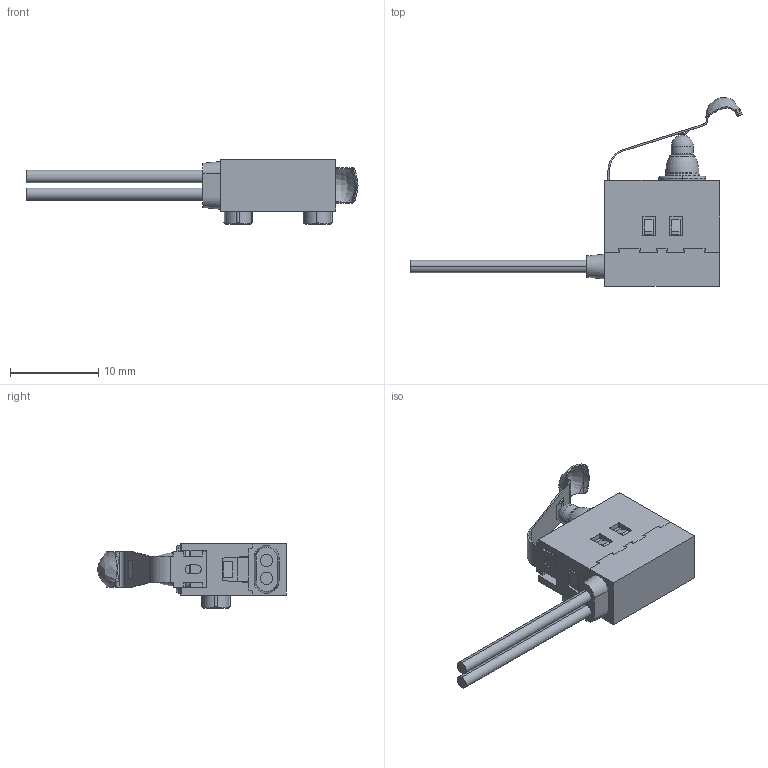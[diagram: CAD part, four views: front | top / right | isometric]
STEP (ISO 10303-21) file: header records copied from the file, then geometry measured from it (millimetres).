
FILE_DESCRIPTION (( 'STEP AP214' ), '1' );
FILE_NAME ('SPVQ352000.STEP', '2011-03-22T04:16:17', ( '' ), ( '' ), 'SwSTEP 2.0', 'SolidWorks 2007', '' );
FILE_SCHEMA (( 'AUTOMOTIVE_DESIGN' ));
Length unit declared in the file: millimetre
Products named in the file (1): SPVQ352000
Bounding box: 37.54 x 21.36 x 7.3 mm (x, y, z)
Volume: 1016 mm3; surface area: 1548.8 mm2
Topology: 1 solids, 1 shells, 416 faces, 1198 edges, 777 vertices
Faces by surface type: plane 240, cylinder 130, bspline 18, torus 18, cone 8, sphere 2
Entity records: 19059 total; most frequent: CARTESIAN_POINT 3522, ORIENTED_EDGE 2388, DIRECTION 2220, EDGE_CURVE 1194, VECTOR 810, LINE 810, VERTEX_POINT 775, AXIS2_PLACEMENT_3D 705
